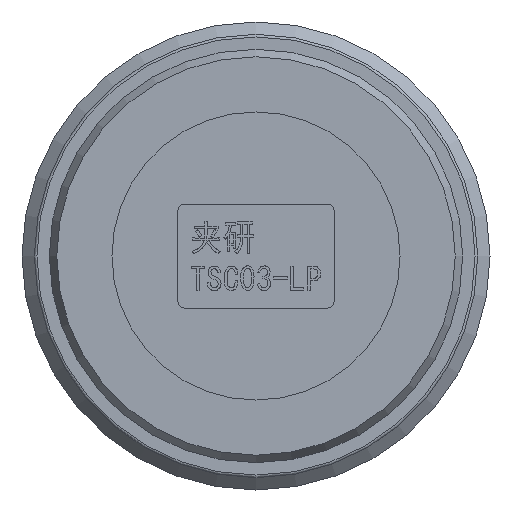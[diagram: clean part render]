
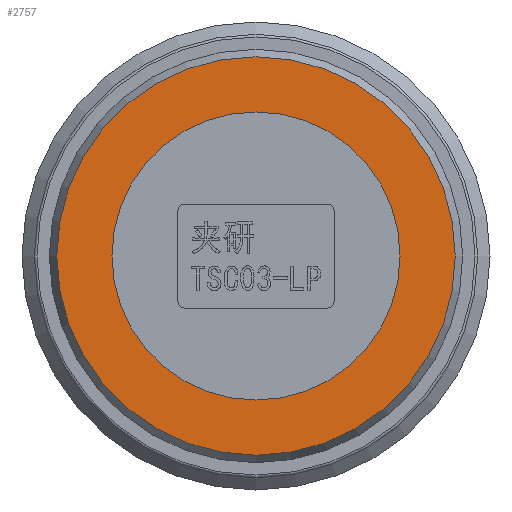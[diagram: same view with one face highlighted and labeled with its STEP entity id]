
A CAD part, front view. The second image highlights one B-rep face of the part: STEP entity #2757.
In plain terms, the highlighted planar face has unit normal (0, -1, 0).
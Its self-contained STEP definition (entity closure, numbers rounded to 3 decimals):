
#1565=PLANE('',#5709);
#2757=ADVANCED_FACE('',(#3017,#3018),#1565,.T.);
#3017=FACE_BOUND('',#3140,.T.);
#3018=FACE_BOUND('',#3141,.T.);
#3140=EDGE_LOOP('',(#3538));
#3141=EDGE_LOOP('',(#3539));
#3538=ORIENTED_EDGE('',*,*,#4988,.T.);
#3539=ORIENTED_EDGE('',*,*,#4986,.F.);
#4572=VERTEX_POINT('',#6937);
#4574=VERTEX_POINT('',#6942);
#4986=EDGE_CURVE('',#4572,#4572,#5550,.T.);
#4988=EDGE_CURVE('',#4574,#4574,#5552,.T.);
#5550=CIRCLE('',#5666,11.08);
#5552=CIRCLE('',#5669,15.325);
#5666=AXIS2_PLACEMENT_3D('',#6936,#6024,#6025);
#5669=AXIS2_PLACEMENT_3D('',#6941,#6030,#6031);
#5709=AXIS2_PLACEMENT_3D('',#7261,#6122,#6123);
#6024=DIRECTION('',(0.,-1.,0.));
#6025=DIRECTION('',(0.,0.,-1.));
#6030=DIRECTION('',(0.,-1.,0.));
#6031=DIRECTION('',(0.,0.,-1.));
#6122=DIRECTION('',(0.,-1.,0.));
#6123=DIRECTION('',(0.,0.,-1.));
#6936=CARTESIAN_POINT('',(-14.168,0.3,0.));
#6937=CARTESIAN_POINT('',(-14.168,0.3,-11.08));
#6941=CARTESIAN_POINT('',(-14.168,0.3,0.));
#6942=CARTESIAN_POINT('',(-14.168,0.3,-15.325));
#7261=CARTESIAN_POINT('',(-25.248,0.3,0.));
